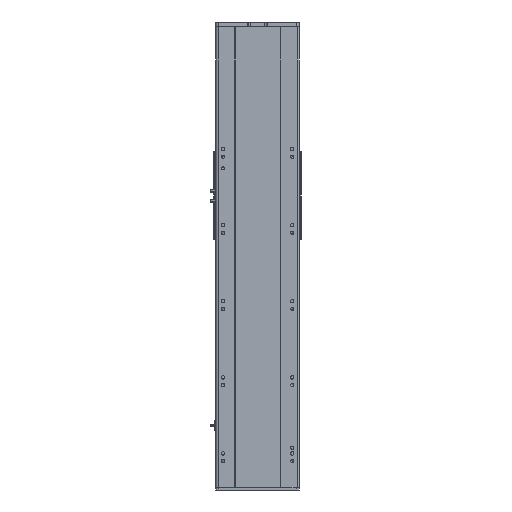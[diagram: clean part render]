
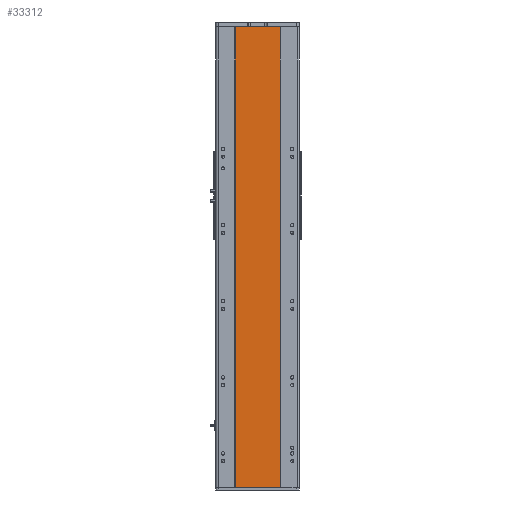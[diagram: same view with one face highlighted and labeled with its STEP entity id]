
A CAD part, front view. The second image highlights one B-rep face of the part: STEP entity #33312.
In plain terms, the highlighted planar face has unit normal (0, -1, 0).
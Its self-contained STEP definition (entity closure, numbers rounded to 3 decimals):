
#927 = AXIS2_PLACEMENT_3D ( 'NONE', #13072, #16339, #30400 ) ;
#1628 = LINE ( 'NONE', #2100, #5619 ) ;
#2100 = CARTESIAN_POINT ( 'NONE',  ( -59., 1., -605.5 ) ) ;
#2227 = DIRECTION ( 'NONE',  ( 1., 0., 0. ) ) ;
#5480 = VERTEX_POINT ( 'NONE', #8020 ) ;
#5619 = VECTOR ( 'NONE', #2227, 1000. ) ;
#8020 = CARTESIAN_POINT ( 'NONE',  ( 59., 1., -605.5 ) ) ;
#8583 = ORIENTED_EDGE ( 'NONE', *, *, #18141, .T. ) ;
#8801 = DIRECTION ( 'NONE',  ( 1., 0., 0. ) ) ;
#10074 = VECTOR ( 'NONE', #10248, 1000. ) ;
#10248 = DIRECTION ( 'NONE',  ( 0., 0., -1. ) ) ;
#10832 = ORIENTED_EDGE ( 'NONE', *, *, #19060, .T. ) ;
#10935 = LINE ( 'NONE', #21799, #31147 ) ;
#13072 = CARTESIAN_POINT ( 'NONE',  ( -59., 1., 605.5 ) ) ;
#13438 = PLANE ( 'NONE',  #927 ) ;
#15902 = DIRECTION ( 'NONE',  ( 0., 0., -1. ) ) ;
#16126 = CARTESIAN_POINT ( 'NONE',  ( 59., 1., 605.5 ) ) ;
#16339 = DIRECTION ( 'NONE',  ( 0., 1., 0. ) ) ;
#16425 = CARTESIAN_POINT ( 'NONE',  ( 59., 1., 605.5 ) ) ;
#17215 = LINE ( 'NONE', #16126, #10074 ) ;
#18141 = EDGE_CURVE ( 'NONE', #28222, #5480, #1628, .T. ) ;
#19060 = EDGE_CURVE ( 'NONE', #25096, #28222, #10935, .T. ) ;
#20394 = VECTOR ( 'NONE', #8801, 1000. ) ;
#20773 = ORIENTED_EDGE ( 'NONE', *, *, #35759, .F. ) ;
#21693 = ORIENTED_EDGE ( 'NONE', *, *, #23463, .F. ) ;
#21799 = CARTESIAN_POINT ( 'NONE',  ( -59., 1., 605.5 ) ) ;
#23463 = EDGE_CURVE ( 'NONE', #23684, #5480, #17215, .T. ) ;
#23539 = EDGE_LOOP ( 'NONE', ( #8583, #21693, #20773, #10832 ) ) ;
#23684 = VERTEX_POINT ( 'NONE', #16425 ) ;
#25096 = VERTEX_POINT ( 'NONE', #34243 ) ;
#27579 = CARTESIAN_POINT ( 'NONE',  ( -59., 1., -605.5 ) ) ;
#28222 = VERTEX_POINT ( 'NONE', #27579 ) ;
#30400 = DIRECTION ( 'NONE',  ( -1., 0., 0. ) ) ;
#31147 = VECTOR ( 'NONE', #15902, 1000. ) ;
#31595 = CARTESIAN_POINT ( 'NONE',  ( -59., 1., 605.5 ) ) ;
#31730 = FACE_OUTER_BOUND ( 'NONE', #23539, .T. ) ;
#33312 = ADVANCED_FACE ( 'NONE', ( #31730 ), #13438, .F. ) ;
#34243 = CARTESIAN_POINT ( 'NONE',  ( -59., 1., 605.5 ) ) ;
#35259 = LINE ( 'NONE', #31595, #20394 ) ;
#35759 = EDGE_CURVE ( 'NONE', #25096, #23684, #35259, .T. ) ;
